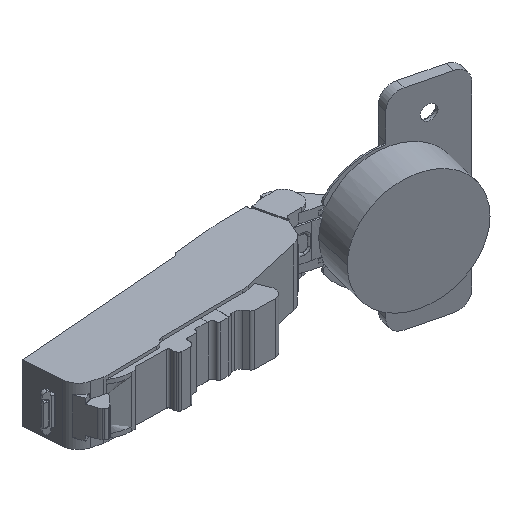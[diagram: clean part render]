
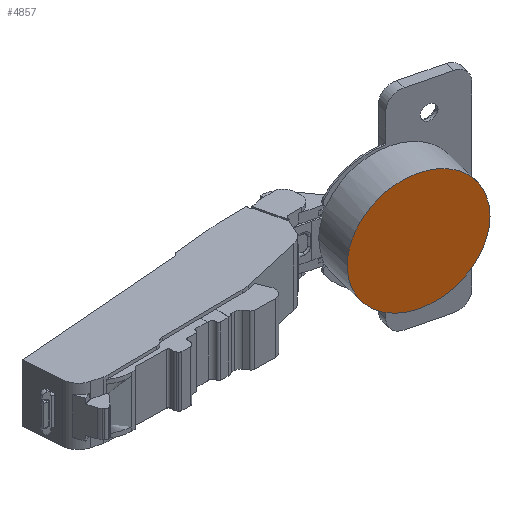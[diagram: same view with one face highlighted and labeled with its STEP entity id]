
A CAD part, isometric view. The second image highlights one B-rep face of the part: STEP entity #4857.
In plain terms, the highlighted planar face has unit normal (-0.242, -0.97, 0).
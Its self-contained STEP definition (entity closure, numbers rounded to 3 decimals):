
#42 = CARTESIAN_POINT ( 'NONE',  ( 15.97, 8.542, 18.367 ) ) ;
#108 = CARTESIAN_POINT ( 'NONE',  ( 7.853, 10.565, 14.901 ) ) ;
#218 = CARTESIAN_POINT ( 'NONE',  ( 28.564, 5.402, 14.902 ) ) ;
#401 = ORIENTED_EDGE ( 'NONE', *, *, #2093, .T. ) ;
#426 = B_SPLINE_CURVE_WITH_KNOTS ( 'NONE', 3,
 ( #8194, #10870, #7363, #9090, #10039, #218, #5464, #3852, #1835, #42, #2849, #8258, #108, #3675, #7421, #6414, #2018, #5411 ),
 .UNSPECIFIED., .F., .F.,
 ( 4, 2, 2, 2, 2, 2, 2, 2, 4 ),
 ( 0., 0.125, 0.25, 0.375, 0.5, 0.625, 0.75, 0.875, 1. ),
 .UNSPECIFIED. ) ;
#1594 = EDGE_LOOP ( 'NONE', ( #6149, #401 ) ) ;
#1813 = PLANE ( 'NONE',  #5943 ) ;
#1835 = CARTESIAN_POINT ( 'NONE',  ( 20.446, 7.426, 18.367 ) ) ;
#2018 = CARTESIAN_POINT ( 'NONE',  ( 1.325, 12.193, 3.275 ) ) ;
#2093 = EDGE_CURVE ( 'NONE', #8878, #7347, #426, .T. ) ;
#2849 = CARTESIAN_POINT ( 'NONE',  ( 13.815, 9.079, 17.925 ) ) ;
#3275 = CARTESIAN_POINT ( 'NONE',  ( 35.092, 3.775, 0.967 ) ) ;
#3675 = CARTESIAN_POINT ( 'NONE',  ( 4.687, 11.354, 11.64 ) ) ;
#3774 = DIRECTION ( 'NONE',  ( -0.242, -0.97, 0. ) ) ;
#3852 = CARTESIAN_POINT ( 'NONE',  ( 22.602, 6.888, 17.925 ) ) ;
#4555 = FACE_OUTER_BOUND ( 'NONE', #1594, .T. ) ;
#4857 = ADVANCED_FACE ( 'NONE', ( #4555 ), #1813, .T. ) ;
#5411 = CARTESIAN_POINT ( 'NONE',  ( 1.325, 12.193, 0.967 ) ) ;
#5464 = CARTESIAN_POINT ( 'NONE',  ( 26.737, 5.858, 16.16 ) ) ;
#5620 = DIRECTION ( 'NONE',  ( -0.242, -0.97, 0. ) ) ;
#5943 = AXIS2_PLACEMENT_3D ( 'NONE', #6450, #5620, #6332 ) ;
#6149 = ORIENTED_EDGE ( 'NONE', *, *, #8085, .T. ) ;
#6332 = DIRECTION ( 'NONE',  ( -0.97, 0.242, 0. ) ) ;
#6383 = CARTESIAN_POINT ( 'NONE',  ( 1.325, 12.193, 0.967 ) ) ;
#6414 = CARTESIAN_POINT ( 'NONE',  ( 1.753, 12.086, 5.494 ) ) ;
#6450 = CARTESIAN_POINT ( 'NONE',  ( 18.208, 7.984, 0.967 ) ) ;
#6604 = CIRCLE ( 'NONE', #8881, 17.4 ) ;
#7230 = DIRECTION ( 'NONE',  ( 0.97, -0.242, 0. ) ) ;
#7347 = VERTEX_POINT ( 'NONE', #6383 ) ;
#7363 = CARTESIAN_POINT ( 'NONE',  ( 34.663, 3.882, 5.495 ) ) ;
#7421 = CARTESIAN_POINT ( 'NONE',  ( 3.467, 11.659, 9.757 ) ) ;
#8085 = EDGE_CURVE ( 'NONE', #7347, #8878, #6604, .T. ) ;
#8194 = CARTESIAN_POINT ( 'NONE',  ( 35.092, 3.775, 0.967 ) ) ;
#8258 = CARTESIAN_POINT ( 'NONE',  ( 9.68, 10.11, 16.16 ) ) ;
#8878 = VERTEX_POINT ( 'NONE', #3275 ) ;
#8881 = AXIS2_PLACEMENT_3D ( 'NONE', #8956, #3774, #7230 ) ;
#8956 = CARTESIAN_POINT ( 'NONE',  ( 18.208, 7.984, 0.967 ) ) ;
#9090 = CARTESIAN_POINT ( 'NONE',  ( 32.95, 4.309, 9.756 ) ) ;
#10039 = CARTESIAN_POINT ( 'NONE',  ( 31.729, 4.613, 11.639 ) ) ;
#10870 = CARTESIAN_POINT ( 'NONE',  ( 35.092, 3.775, 3.274 ) ) ;
